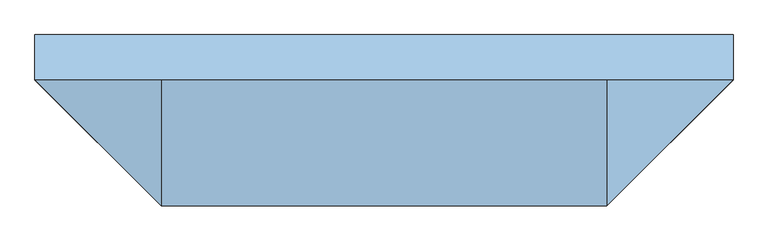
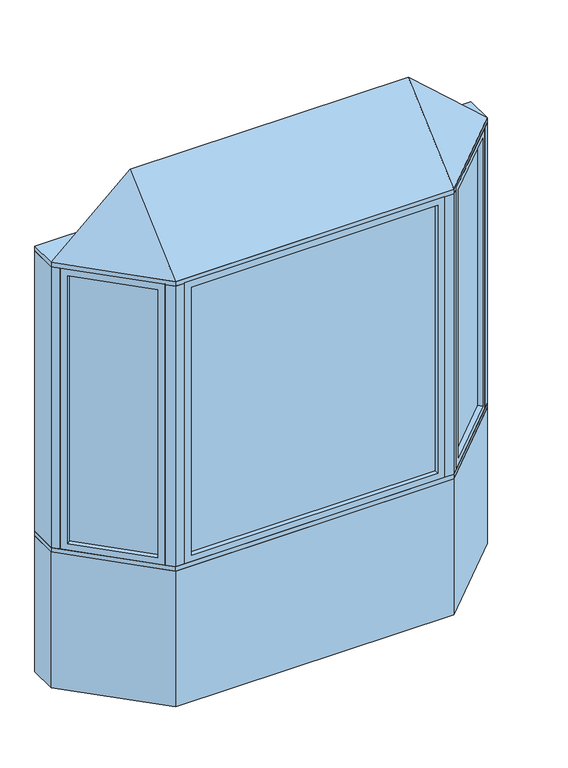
"""IFC4 building model written with IfcOpenShell, lengths in millimetres: window geometry, Pollard_Windows_Tudor Casement Bows and Bays : AML-BAY 45 AFR0616-12-500."""

from ifc_helpers import new_model, si_unit, frame, origin, origin_with_axes, place, context, project, spatial, polyline, outline, extrude, faceted_brep, source, transform, mapped, element, save


def window_64da6ce3(model_context):
    return source(origin(), model_context, "Body", "SolidModel", [
        extrude(outline(polyline([(1110.5964271, -104.763169), (784.824814, -430.5347822), (781.2327115, -426.9426797), (1107.0043247, -101.1710666), (1110.5964271, -104.763169)])), frame((0.0, 0.0, 823.1628), z_axis=(0.0, 0.0, 1.0), x_axis=(1.0, 0.0, 0.0)), (0.0, 0.0, 1.0), 1553.6704),
        faceted_brep([(1101.616171, -113.7434252, 835.8628), (1119.5766833, -131.7039374, 835.8628), (1119.5766833, -131.7039374, 2364.1332), (1101.616171, -113.7434252, 2364.1332), (1107.0043247, -101.1710666, 823.1628), (1110.5964271, -104.763169, 823.1628), (1110.5964271, -104.763169, 2376.8332), (1107.0043247, -101.1710666, 2376.8332), (1080.0635563, -92.1908105, 835.8628), (1098.0240686, -110.1513227, 835.8628), (1098.0240686, -110.1513227, 2364.1332), (1080.0635563, -92.1908105, 2364.1332), (1144.9369265, -106.3436941, 799.998), (1105.4237996, -66.8305672, 799.998), (1105.4237996, -66.8305672, 2399.998), (1144.9369265, -106.3436941, 2399.998), (811.7655823, -439.5150383, 2364.1332), (793.8050701, -421.5545261, 2364.1332), (784.824814, -430.5347822, 2376.8332), (781.2327115, -426.9426797, 2376.8332), (790.2129677, -417.9624236, 2364.1332), (772.2524554, -400.0019114, 2364.1332), (746.8922121, -425.3621547, 2399.998), (786.4053391, -464.8752816, 2399.998), (811.7655823, -439.5150383, 835.8628), (793.8050701, -421.5545261, 835.8628), (784.824814, -430.5347822, 823.1628), (781.2327115, -426.9426797, 823.1628), (790.2129677, -417.9624236, 835.8628), (772.2524554, -400.0019114, 835.8628), (746.8922121, -425.3621547, 799.998), (786.4053391, -464.8752816, 799.998)], [[[0, 1, 2, 3]], [[4, 5, 6, 7]], [[8, 9, 10, 11]], [[12, 13, 14, 15]], [[3, 2, 16, 17]], [[7, 6, 18, 19]], [[11, 10, 20, 21]], [[15, 14, 22, 23]], [[17, 16, 24, 25]], [[19, 18, 26, 27]], [[21, 20, 28, 29]], [[23, 22, 30, 31]], [[25, 24, 1, 0]], [[5, 26, 18, 6], [3, 17, 25, 0]], [[27, 26, 5, 4]], [[7, 19, 27, 4], [9, 28, 20, 10]], [[29, 28, 9, 8]], [[13, 30, 22, 14], [11, 21, 29, 8]], [[31, 30, 13, 12]], [[15, 23, 31, 12], [1, 24, 16, 2]]]),
        extrude(outline(polyline([(-784.824814, -430.5347822), (-1110.5964271, -104.763169), (-1107.0043247, -101.1710666), (-781.2327115, -426.9426797), (-784.824814, -430.5347822)])), frame((0.0, 0.0, 823.1628), z_axis=(0.0, 0.0, 1.0), x_axis=(1.0, 0.0, 0.0)), (0.0, 0.0, 1.0), 1553.6704),
        faceted_brep([(-790.2129677, -417.9624236, 2364.1332), (-772.2524554, -400.0019114, 2364.1332), (-772.2524554, -400.0019114, 835.8628), (-790.2129677, -417.9624236, 835.8628), (-784.824814, -430.5347822, 2376.8332), (-781.2327115, -426.9426797, 2376.8332), (-781.2327115, -426.9426797, 823.1628), (-784.824814, -430.5347822, 823.1628), (-811.7655823, -439.5150383, 2364.1332), (-793.8050701, -421.5545261, 2364.1332), (-793.8050701, -421.5545261, 835.8628), (-811.7655823, -439.5150383, 835.8628), (-746.8922121, -425.3621547, 2399.998), (-786.4053391, -464.8752816, 2399.998), (-786.4053391, -464.8752816, 799.998), (-746.8922121, -425.3621547, 799.998), (-1080.0635563, -92.1908105, 835.8628), (-1098.0240686, -110.1513227, 835.8628), (-1107.0043247, -101.1710666, 823.1628), (-1110.5964271, -104.763169, 823.1628), (-1101.616171, -113.7434252, 835.8628), (-1119.5766833, -131.7039374, 835.8628), (-1144.9369265, -106.3436941, 799.998), (-1105.4237996, -66.8305672, 799.998), (-1080.0635563, -92.1908105, 2364.1332), (-1098.0240686, -110.1513227, 2364.1332), (-1107.0043247, -101.1710666, 2376.8332), (-1110.5964271, -104.763169, 2376.8332), (-1101.616171, -113.7434252, 2364.1332), (-1119.5766833, -131.7039374, 2364.1332), (-1144.9369265, -106.3436941, 2399.998), (-1105.4237996, -66.8305672, 2399.998)], [[[0, 1, 2, 3]], [[4, 5, 6, 7]], [[8, 9, 10, 11]], [[12, 13, 14, 15]], [[3, 2, 16, 17]], [[7, 6, 18, 19]], [[11, 10, 20, 21]], [[15, 14, 22, 23]], [[17, 16, 24, 25]], [[19, 18, 26, 27]], [[21, 20, 28, 29]], [[23, 22, 30, 31]], [[15, 23, 31, 12], [1, 24, 16, 2]], [[25, 24, 1, 0]], [[5, 26, 18, 6], [3, 17, 25, 0]], [[27, 26, 5, 4]], [[7, 19, 27, 4], [9, 28, 20, 10]], [[29, 28, 9, 8]], [[13, 30, 22, 14], [11, 21, 29, 8]], [[31, 30, 13, 12]]]),
        extrude(outline(polyline([(677.8852, -474.8306207), (-677.8852, -474.8306207), (-677.8852, -469.7506207), (677.8852, -469.7506207), (677.8852, -474.8306207)])), frame((0.0, 0.0, 823.1628), z_axis=(0.0, 0.0, 1.0), x_axis=(1.0, 0.0, 0.0)), (0.0, 0.0, 1.0), 1553.6704),
        faceted_brep([(665.1852, -474.8306207, 835.8628), (665.1852, -500.2306207, 835.8628), (665.1852, -500.2306207, 2364.1332), (665.1852, -474.8306207, 2364.1332), (677.8852, -469.7506207, 823.1628), (677.8852, -474.8306207, 823.1628), (677.8852, -474.8306207, 2376.8332), (677.8852, -469.7506207, 2376.8332), (665.1852, -444.3506207, 835.8628), (665.1852, -469.7506207, 835.8628), (665.1852, -469.7506207, 2364.1332), (665.1852, -444.3506207, 2364.1332), (701.05, -500.2306207, 799.998), (701.05, -444.3506207, 799.998), (701.05, -444.3506207, 2399.998), (701.05, -500.2306207, 2399.998), (-665.1852, -500.2306207, 2364.1332), (-665.1852, -474.8306207, 2364.1332), (-677.8852, -474.8306207, 2376.8332), (-677.8852, -469.7506207, 2376.8332), (-665.1852, -469.7506207, 2364.1332), (-665.1852, -444.3506207, 2364.1332), (-701.05, -444.3506207, 2399.998), (-701.05, -500.2306207, 2399.998), (-665.1852, -500.2306207, 835.8628), (-665.1852, -474.8306207, 835.8628), (-677.8852, -474.8306207, 823.1628), (-677.8852, -469.7506207, 823.1628), (-665.1852, -469.7506207, 835.8628), (-665.1852, -444.3506207, 835.8628), (-701.05, -444.3506207, 799.998), (-701.05, -500.2306207, 799.998)], [[[0, 1, 2, 3]], [[4, 5, 6, 7]], [[8, 9, 10, 11]], [[12, 13, 14, 15]], [[3, 2, 16, 17]], [[7, 6, 18, 19]], [[11, 10, 20, 21]], [[15, 14, 22, 23]], [[17, 16, 24, 25]], [[19, 18, 26, 27]], [[21, 20, 28, 29]], [[23, 22, 30, 31]], [[15, 23, 31, 12], [1, 24, 16, 2]], [[25, 24, 1, 0]], [[5, 26, 18, 6], [3, 17, 25, 0]], [[27, 26, 5, 4]], [[7, 19, 27, 4], [9, 28, 20, 10]], [[29, 28, 9, 8]], [[13, 30, 22, 14], [11, 21, 29, 8]], [[31, 30, 13, 12]]]),
        faceted_brep([(1176.5, -74.7806207, 2425.398), (751.05, -500.2306207, 2425.398), (-751.05, -500.2306207, 2425.398), (-1176.5, -74.7806207, 2425.398), (-751.05, -74.7806207, 2806.398), (751.05, -74.7806207, 2806.398)], [[[0, 1, 2, 3]], [[3, 2, 4]], [[2, 1, 5, 4]], [[1, 0, 5]], [[0, 3, 4, 5]]]),
        extrude(outline(polyline([(-1176.5, 77.6193793), (1176.5, 77.6193793), (1176.5, -74.7806207), (751.05, -500.2306207), (-751.05, -500.2306207), (-1176.5, -74.7806207), (-1176.5, 77.6193793)])), frame((0.0, 0.0, 2399.998), z_axis=(0.0, 0.0, 1.0), x_axis=(1.0, 0.0, 0.0)), (0.0, 0.0, 1.0), 25.4),
        extrude(outline(polyline([(-1176.5, -74.7806207), (-1176.5, 77.6193793), (-1113.3738531, 77.6193793), (-1113.3738531, -74.7806207), (-1144.9369265, -106.3436941), (-1176.5, -74.7806207)])), frame((0.0, 0.0, 799.998), z_axis=(0.0, 0.0, 1.0), x_axis=(1.0, 0.0, 0.0)), (0.0, 0.0, 1.0), 1600.0),
        extrude(outline(polyline([(1176.5, 77.6193793), (1176.5, -74.7806207), (1144.9369265, -106.3436941), (1113.3738531, -74.7806207), (1113.3738531, 77.6193793), (1176.5, 77.6193793)])), frame((0.0, 0.0, 799.998), z_axis=(0.0, 0.0, 1.0), x_axis=(1.0, 0.0, 0.0)), (0.0, 0.0, 1.0), 1600.0),
        extrude(outline(polyline([(751.05, -500.2306207), (701.05, -500.2306207), (701.05, -450.2306207), (730.3393219, -450.2306207), (751.05, -429.5199425), (786.4053391, -464.8752816), (751.05, -500.2306207)])), frame((0.0, 0.0, 799.998), z_axis=(0.0, 0.0, 1.0), x_axis=(1.0, 0.0, 0.0)), (0.0, 0.0, 1.0), 1600.0),
        extrude(outline(polyline([(-751.05, -500.2306207), (-786.4053391, -464.8752816), (-751.05, -429.5199425), (-730.3393219, -450.2306207), (-701.05, -450.2306207), (-701.05, -500.2306207), (-751.05, -500.2306207)])), frame((0.0, 0.0, 799.998), z_axis=(0.0, 0.0, 1.0), x_axis=(1.0, 0.0, 0.0)), (0.0, 0.0, 1.0), 1600.0),
        extrude(outline(polyline([(-751.05, -500.2306207), (-1176.5, -74.7806207), (-1176.5, 77.6193793), (-1113.3738531, 77.6193793), (-687.9238531, -347.8306207), (687.9238531, -347.8306207), (1113.3738531, 77.6193793), (1176.5, 77.6193793), (1176.5, -74.7806207), (751.05, -500.2306207), (-751.05, -500.2306207)])), frame((0.0, 0.0, 774.598), z_axis=(0.0, 0.0, 1.0), x_axis=(1.0, 0.0, 0.0)), (0.0, 0.0, 1.0), 25.4),
        extrude(outline(polyline([(-1176.5, -74.7806207), (-1176.5, 77.6193793), (-1113.3738531, 77.6193793), (-687.9238531, -347.8306207), (687.9238531, -347.8306207), (1113.3738531, 77.6193793), (1176.5, 77.6193793), (1176.5, -74.7806207), (751.05, -500.2306207), (-751.05, -500.2306207), (-1176.5, -74.7806207)])), origin_with_axes(), (0.0, 0.0, 1.0), 774.598),
    ])


if __name__ == "__main__":
    model = new_model("IFC4")
    model_context = context("Model", 3, world=origin())
    ifc_project = project(units=[si_unit("LENGTHUNIT", "METRE", prefix="MILLI")], contexts=[model_context])
    site = spatial("IfcSite", under=ifc_project)
    building = spatial("IfcBuilding", under=site)
    placement = place(None, origin())
    window_shape = window_64da6ce3(model_context)
    element("IfcWindow", 1, ObjectType="Pollard_Windows_Tudor Casement Bows and Bays : AML-BAY 45 AFR0616-12-500", at=placement, inside=building, context=model_context, shape_type="MappedRepresentation", body=[
        mapped(window_shape, transform((0.0, 0.0, 0.0), x_axis=(1.0, 0.0, 0.0), y_axis=(0.0, 1.0, 0.0), z_axis=(0.0, 0.0, 1.0))),
    ])
    save(model, "model.ifc")
